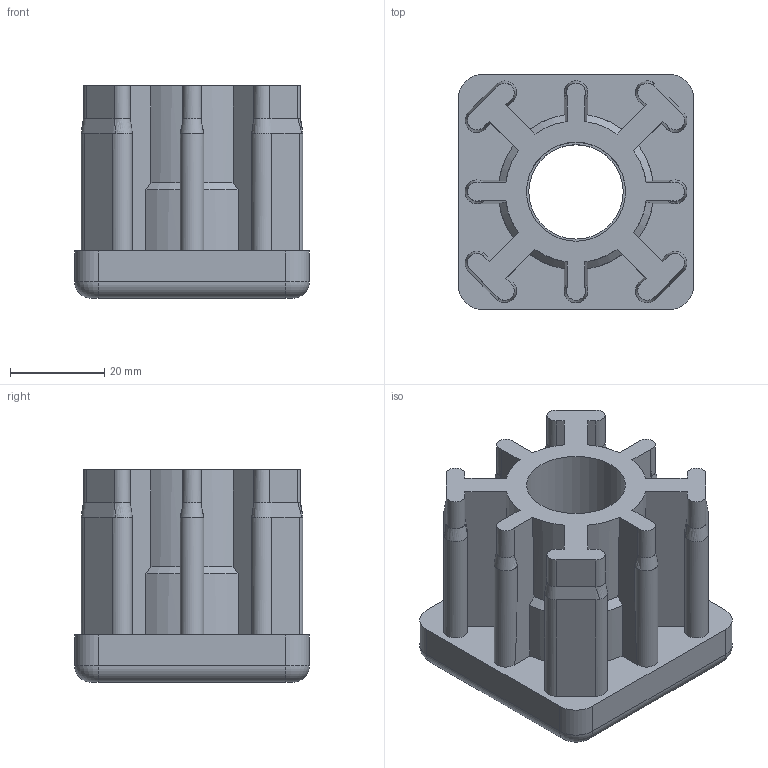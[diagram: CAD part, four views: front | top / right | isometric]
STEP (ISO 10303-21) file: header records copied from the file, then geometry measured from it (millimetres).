
FILE_DESCRIPTION((''),'2;1');
FILE_NAME('C:\DOCUMENTI\LIBRERIE_3D\PIEDI\LEVEL_STEP\68_7254.STP','2011-01-10T12:26:51',(''),(''),'STEP Write','Mastercam X4 ... CNC Software, Inc.','');
FILE_SCHEMA(('AUTOMOTIVE_DESIGN'));
Length unit declared in the file: millimetre
Products named in the file (1): None
Bounding box: 49.8 x 49.8 x 45 mm (x, y, z)
Volume: 53875.8 mm3; surface area: 22483.8 mm2
Topology: 2 solids, 2 shells, 144 faces, 395 edges, 257 vertices
Faces by surface type: plane 58, cylinder 52, bspline 20, cone 10, torus 4
Full cylindrical faces by diameter (mm): 20 x1, 21 x1, 24 x2
Entity records: 6840 total; most frequent: CARTESIAN_POINT 3444, ORIENTED_EDGE 764, DIRECTION 612, EDGE_CURVE 382, VERTEX_POINT 250, AXIS2_PLACEMENT_3D 226, VECTOR 160, LINE 160
